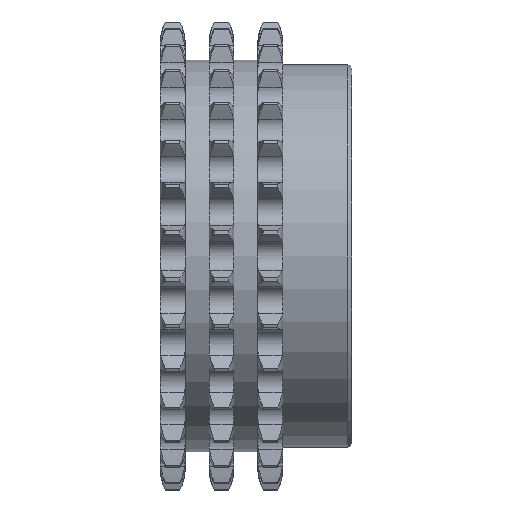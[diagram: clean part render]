
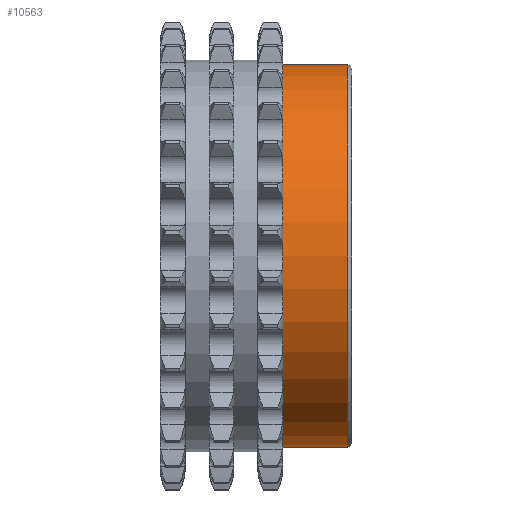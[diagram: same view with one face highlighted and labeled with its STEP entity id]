
A CAD part, front view. The second image highlights one B-rep face of the part: STEP entity #10563.
In plain terms, the highlighted cylindrical face has radius 40 mm (diameter 80 mm), a full revolution.
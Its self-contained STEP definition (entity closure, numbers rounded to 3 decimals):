
#26=FACE_BOUND('',#1371,.T.);
#790=FACE_OUTER_BOUND('',#1370,.T.);
#1370=EDGE_LOOP('',(#9604));
#1371=EDGE_LOOP('',(#9605));
#1816=CIRCLE('',#11470,40.);
#1947=CIRCLE('',#11702,40.);
#4557=VERTEX_POINT('',#20909);
#4562=VERTEX_POINT('',#21146);
#6116=EDGE_CURVE('',#4557,#4557,#1816,.T.);
#6247=EDGE_CURVE('',#4562,#4562,#1947,.T.);
#9604=ORIENTED_EDGE('',*,*,#6116,.T.);
#9605=ORIENTED_EDGE('',*,*,#6247,.F.);
#9996=CYLINDRICAL_SURFACE('',#11701,40.);
#10563=ADVANCED_FACE('',(#790,#26),#9996,.T.);
#11470=AXIS2_PLACEMENT_3D('',#20910,#13883,#13884);
#11701=AXIS2_PLACEMENT_3D('',#21145,#14345,#14346);
#11702=AXIS2_PLACEMENT_3D('',#21147,#14347,#14348);
#13883=DIRECTION('center_axis',(1.,0.,0.));
#13884=DIRECTION('ref_axis',(0.,0.,-1.));
#14345=DIRECTION('center_axis',(1.,0.,0.));
#14346=DIRECTION('ref_axis',(0.,1.,0.));
#14347=DIRECTION('center_axis',(1.,0.,0.));
#14348=DIRECTION('ref_axis',(0.,0.,-1.));
#20909=CARTESIAN_POINT('',(5.282,16.768,0.));
#20910=CARTESIAN_POINT('Origin',(5.282,-23.232,0.));
#21145=CARTESIAN_POINT('Origin',(12.082,-23.232,0.));
#21146=CARTESIAN_POINT('',(18.882,16.768,0.));
#21147=CARTESIAN_POINT('Origin',(18.882,-23.232,0.));
